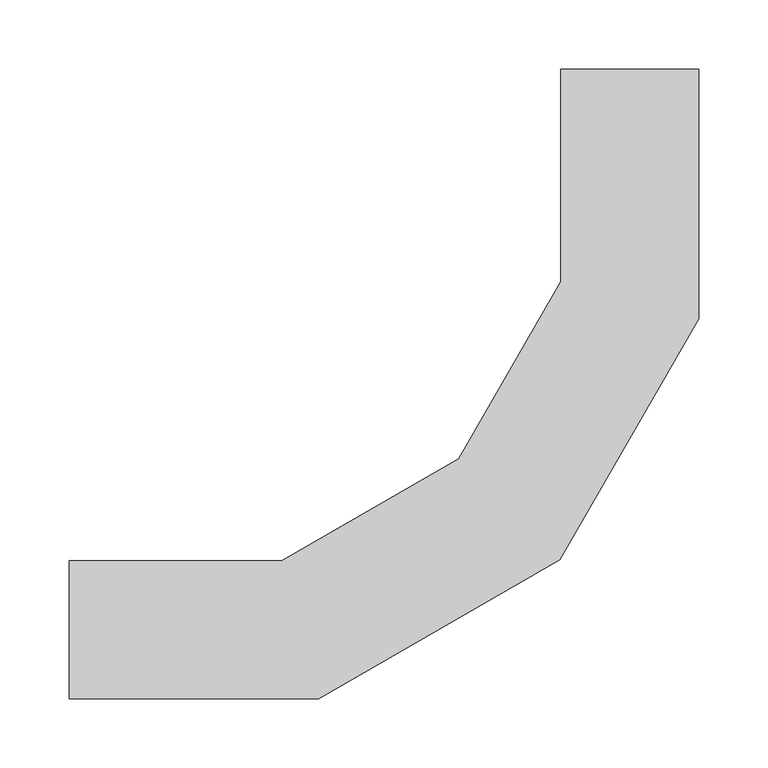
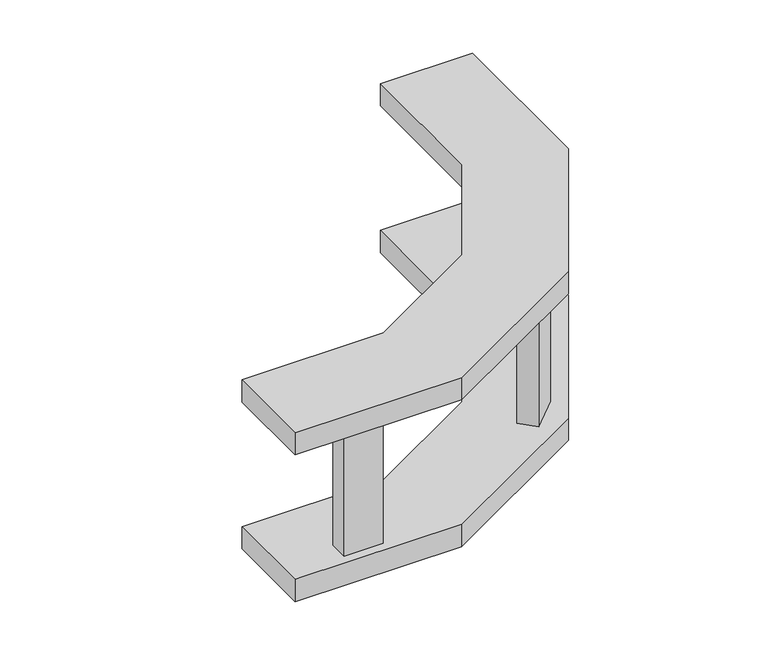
"""IFC4 building model written with IfcOpenShell, lengths in millimetres: cable carrier fitting geometry, Legrand_CableLadder_Swifts_Topaz_InsideRiser-13 : Hot Dip Galvanised (after manufacture)."""

from ifc_helpers import new_model, si_unit, frame, origin, place, context, project, spatial, polyline, outline, extrude, source, transform, mapped, element, save


def cable_carrier_fitting_e394ca08(model_context):
    return source(origin(), model_context, "Body", "SweptSolid", [
        extrude(outline(polyline([(-96.7509563, 67.0524715), (-67.0524715, 96.7509563), (-52.2032291, 81.9017139), (-81.9017139, 52.2032291), (-96.7509563, 67.0524715)])), frame((0.0, 0.0, -71.5), z_axis=(0.0, 0.0, 1.0), x_axis=(1.0, 0.0, 0.0)), (0.0, 0.0, 1.0), 143.0),
        extrude(outline(polyline([(-346.5, -19.0), (-304.5, -19.0), (-304.5, -40.0), (-346.5, -40.0), (-346.5, -19.0)])), frame((0.0, 0.0, -71.5), z_axis=(0.0, 0.0, 1.0), x_axis=(1.0, 0.0, 0.0)), (0.0, 0.0, 1.0), 143.0),
        extrude(outline(polyline([(19.0, 304.5), (19.0, 346.5), (40.0, 346.5), (40.0, 304.5), (19.0, 304.5)])), frame((0.0, 0.0, -71.5), z_axis=(0.0, 0.0, 1.0), x_axis=(1.0, 0.0, 0.0)), (0.0, 0.0, 1.0), 143.0),
        extrude(outline(polyline([(-224.8850782, -50.0), (-405.5, -50.0), (-405.5, 50.0), (-251.6799975, 50.0), (-123.8200025, 123.8200025), (-50.0, 251.6799975), (-50.0, 405.5), (50.0, 405.5), (50.0, 224.8850782), (-50.6149218, 50.6149218), (-224.8850782, -50.0)])), frame((0.0, 0.0, -97.0), z_axis=(0.0, 0.0, 1.0), x_axis=(1.0, 0.0, 0.0)), (0.0, 0.0, 1.0), 25.5),
        extrude(outline(polyline([(-405.5, -50.0), (-405.5, 50.0), (-251.6799975, 50.0), (-123.8200025, 123.8200025), (-50.0, 251.6799975), (-50.0, 405.5), (50.0, 405.5), (50.0, 224.8850782), (-50.6149218, 50.6149218), (-224.8850782, -50.0), (-405.5, -50.0)])), frame((0.0, 0.0, 71.5), z_axis=(0.0, 0.0, 1.0), x_axis=(1.0, 0.0, 0.0)), (0.0, 0.0, 1.0), 25.5),
    ])


if __name__ == "__main__":
    model = new_model("IFC4")
    model_context = context("Model", 3, world=origin())
    ifc_project = project(units=[si_unit("LENGTHUNIT", "METRE", prefix="MILLI")], contexts=[model_context])
    site = spatial("IfcSite", under=ifc_project)
    building = spatial("IfcBuilding", under=site)
    placement = place(None, origin())
    cable_carrier_fitting_shape = cable_carrier_fitting_e394ca08(model_context)
    element("IfcCableCarrierFitting", 1, ObjectType="Legrand_CableLadder_Swifts_Topaz_InsideRiser-13 : Hot Dip Galvanised (after manufacture)", at=placement, inside=building, context=model_context, shape_type="MappedRepresentation", body=[
        mapped(cable_carrier_fitting_shape, transform((0.0, 0.0, 0.0), x_axis=(1.0, 0.0, 0.0), y_axis=(0.0, 1.0, 0.0), z_axis=(0.0, 0.0, 1.0))),
    ])
    save(model, "model.ifc")
